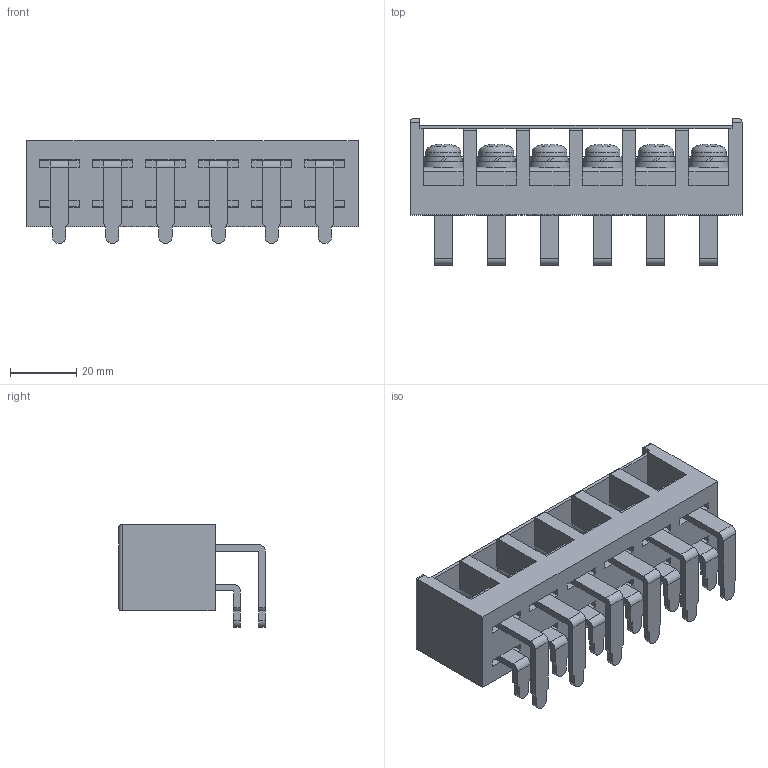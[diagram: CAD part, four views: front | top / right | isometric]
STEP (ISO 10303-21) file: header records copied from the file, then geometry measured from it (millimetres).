
FILE_DESCRIPTION(/* description */ ('Alibre Inc.'),/* implementation_level */ '2;1');
FILE_NAME(/* name */ 'export-8F4FD672-D10A-4E1D-9205-C4B8166DBC6C',/* time_stamp */ '2025-01-30T14:18:47+09:00',/* author */ (''),/* organization */ (''),/* preprocessor_version */ 'ST-DEVELOPER v17',/* originating_system */ 'Alibre',/* authorisation */ '');
FILE_SCHEMA (('CONFIG_CONTROL_DESIGN'));
Length unit declared in the file: millimetre
Bounding box: 100 x 44.1 x 31 mm (x, y, z)
Volume: 49798.4 mm3; surface area: 29842 mm2
Topology: 1 solids, 2 shells, 906 faces, 2550 edges, 1667 vertices
Faces by surface type: plane 619, bspline 150, cylinder 100, cone 25, torus 6, sphere 6
Full cylindrical faces by diameter (mm): 6 x1, 10.5 x6, 12.5 x5
Entity records: 27352 total; most frequent: CARTESIAN_POINT 6328, ORIENTED_EDGE 5040, DIRECTION 3109, EDGE_CURVE 2520, VERTEX_POINT 1656, VECTOR 1645, LINE 1645, AXIS2_PLACEMENT_3D 987
